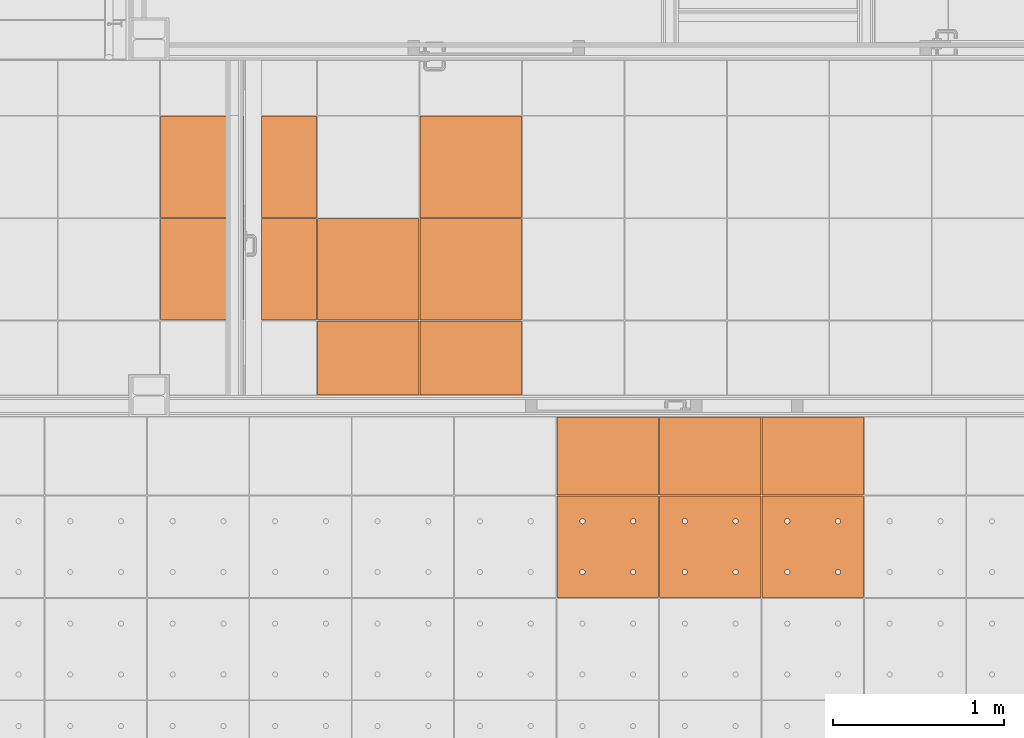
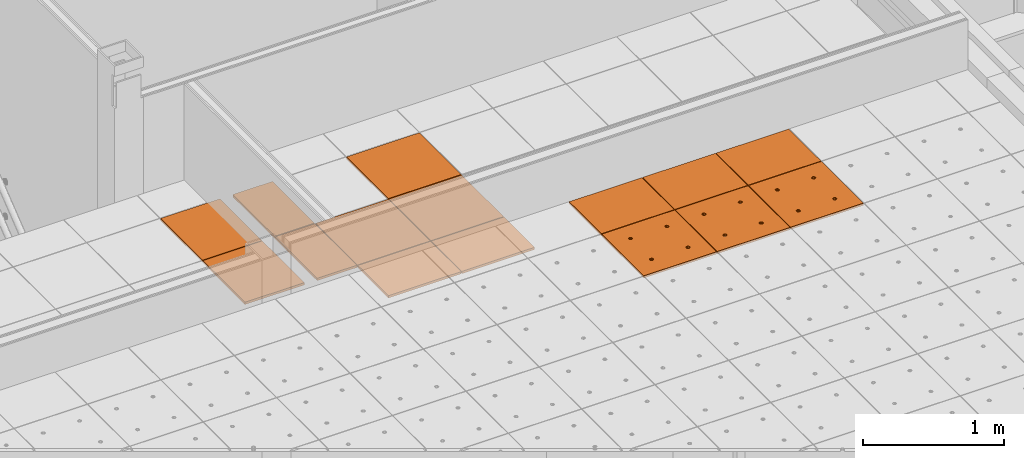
# One storey, part 268 of 338: 15 proxies, 3 elements without a shape of their own.
"""IFC2X3 building model written with IfcOpenShell, lengths in millimetres."""

import ifcopenshell
import ifcopenshell.guid

model = None  # the IFC model being written
_history = None  # IfcOwnerHistory: only IFC2X3 demands one
_inside = {}  # id of a spatial element -> (the spatial element, [elements in it])
_under = {}  # id of a project, library or spatial element -> (it, [spatial elements below it])
_declared = {}  # id of a project -> (the project, [libraries it declares])
_typed = {}  # id of a type object -> (the type object, [elements of that type])
_made_of = {}  # id of a material, layer set ... -> (it, [elements and type objects made of it])


def new_model(schema):
    """Start an empty IFC model of exactly this schema.

    Asked for "IFC4X3", IfcOpenShell would pick the latest addendum, in which some entities
    have other attributes; the version numbers below select the first issue.
    IFC2X3 requires an IfcOwnerHistory on every rooted entity: one is made here for all.
    """
    global model, _history
    if schema == "IFC4X3":
        model = ifcopenshell.file(schema_version=(4, 3, 0, 0))
    else:
        model = ifcopenshell.file(schema=schema)
    _inside.clear()
    _under.clear()
    _declared.clear()
    _typed.clear()
    _made_of.clear()
    _history = None
    if model.schema == "IFC2X3":
        org = make("IfcOrganization", Name="unknown")
        user = make(
            "IfcPersonAndOrganization",
            ThePerson=make("IfcPerson", FamilyName="unknown"),
            TheOrganization=org,
        )
        app = make(
            "IfcApplication",
            ApplicationDeveloper=org,
            Version="unknown",
            ApplicationFullName="unknown",
            ApplicationIdentifier="unknown",
        )
        _history = make(
            "IfcOwnerHistory",
            OwningUser=user,
            OwningApplication=app,
            ChangeAction="ADDED",
            CreationDate=0,
        )
    return model


def make(cls, **values):
    """One entity of the class cls with the attributes given. An attribute that is None is left unset."""
    return model.create_entity(
        cls, **{name: value for name, value in values.items() if value is not None}
    )


def entity(cls, *values):
    """Any entity or typed value of the class cls, its attributes in the order of the schema. None: left unset."""
    e = model.create_entity(cls)
    for i, value in enumerate(values):
        if value is not None:
            e[i] = value
    return e


def rooted(cls, **values):
    """An entity with a GlobalId (a new one), such as an element, a storey or a relation."""
    return make(cls, GlobalId=ifcopenshell.guid.new(), OwnerHistory=_history, **values)


def si_unit(unit_type, name, prefix=None):
    """IfcSIUnit, for example si_unit("LENGTHUNIT", "METRE", prefix="MILLI")."""
    return make("IfcSIUnit", UnitType=unit_type, Prefix=prefix, Name=name)


def converted_unit(unit_type, name, factor, base, dimensions=None, offset=None):
    """IfcConversionBasedUnit, such as the inch: factor (a typed value) times the base unit."""
    return make(
        "IfcConversionBasedUnit"
        if offset is None
        else "IfcConversionBasedUnitWithOffset",
        ConversionOffset=offset,
        Dimensions=None
        if dimensions is None
        else entity("IfcDimensionalExponents", *dimensions),
        UnitType=unit_type,
        Name=name,
        ConversionFactor=make(
            "IfcMeasureWithUnit", ValueComponent=factor, UnitComponent=base
        ),
    )


def derived_unit(unit_type, elements):
    """IfcDerivedUnit: a product of units, each with its exponent."""
    return make(
        "IfcDerivedUnit",
        Elements=[
            make("IfcDerivedUnitElement", Unit=unit, Exponent=power)
            for unit, power in elements
        ],
        UnitType=unit_type,
    )


def money_unit(currency):
    """IfcMonetaryUnit."""
    return make("IfcMonetaryUnit", Currency=currency)


def assignment(units):
    """IfcUnitAssignment: the units of a project."""
    return None if units is None else make("IfcUnitAssignment", Units=units)


def point(xyz):
    """IfcCartesianPoint."""
    return None if xyz is None else make("IfcCartesianPoint", Coordinates=xyz)


def direction(xyz):
    """IfcDirection."""
    return None if xyz is None else make("IfcDirection", DirectionRatios=xyz)


def frame(location, z_axis=None, x_axis=None):
    """IfcAxis2Placement3D, a coordinate frame: its origin and axes. An axis left out is left unset."""
    return make(
        "IfcAxis2Placement3D",
        Location=point(location),
        Axis=direction(z_axis),
        RefDirection=direction(x_axis),
    )


def origin_with_axes():
    """The frame at (0, 0, 0) with the z axis (0, 0, 1) and the x axis (1, 0, 0) written out."""
    return frame((0.0, 0.0, 0.0), z_axis=(0.0, 0.0, 1.0), x_axis=(1.0, 0.0, 0.0))


def place(relative_to, where):
    """IfcLocalPlacement: puts the frame where relative to a parent placement (None: the world)."""
    return make(
        "IfcLocalPlacement", PlacementRelTo=relative_to, RelativePlacement=where
    )


def context(
    kind, dimensions, precision=None, world=None, true_north=None, identifier=None
):
    """IfcGeometricRepresentationContext, for example the 3D "Model" context."""
    return make(
        "IfcGeometricRepresentationContext",
        ContextIdentifier=identifier,
        ContextType=kind,
        CoordinateSpaceDimension=dimensions,
        Precision=precision,
        WorldCoordinateSystem=world,
        TrueNorth=true_north,
    )


def subcontext(parent, identifier, kind, view, scale=None):
    """IfcGeometricRepresentationSubContext, for example "Body" below "Model"."""
    return make(
        "IfcGeometricRepresentationSubContext",
        ContextIdentifier=identifier,
        ContextType=kind,
        ParentContext=parent,
        TargetScale=scale,
        TargetView=view,
    )


def project(units=None, contexts=None):
    """IfcProject with its units and contexts."""
    return rooted(
        "IfcProject",
        Name="project",
        RepresentationContexts=contexts,
        UnitsInContext=assignment(units),
    )


def spatial(cls, under=None, at=None, **own):
    """A site, building, storey or space (cls), placed at a placement, below another one or the project."""
    s = rooted(cls, ObjectPlacement=at, **own)
    if under is not None:
        _under.setdefault(under.id(), (under, []))[1].append(s)
    return s


def faces_of(points, faces, orient=None, outer=None):
    """IfcFace entities. A face is a list of loops; a loop is a list of indices into points, from 0.

    orient and outer hold one flag for each loop. By default every Orientation is true, the
    first loop of a face is its IfcFaceOuterBound and the others are IfcFaceBound.
    """
    made = []
    for i, loops in enumerate(faces):
        bounds = []
        for j, loop in enumerate(loops):
            is_outer = j == 0 if outer is None else outer[i][j]
            bounds.append(
                make(
                    "IfcFaceOuterBound" if is_outer else "IfcFaceBound",
                    Bound=make("IfcPolyLoop", Polygon=[points[k] for k in loop]),
                    Orientation=True if orient is None else orient[i][j],
                )
            )
        made.append(make("IfcFace", Bounds=bounds))
    return made


def faceted_brep(points, faces, orient=None, outer=None, voids=None):
    """IfcFacetedBrep: a solid bounded by flat faces; with voids (closed shells), ...WithVoids."""
    shared = [point(p) for p in points]
    hull = make("IfcClosedShell", CfsFaces=faces_of(shared, faces, orient, outer))
    if voids is None:
        return make("IfcFacetedBrep", Outer=hull)
    return make(
        "IfcFacetedBrepWithVoids",
        Outer=hull,
        Voids=[
            make(cls, CfsFaces=faces_of(shared, fs, o, b)) for cls, fs, o, b in voids
        ],
    )


def shape(context_of_items, identifier, shape_type, items):
    """IfcShapeRepresentation: the items that make up one representation, for example the "Body"."""
    return make(
        "IfcShapeRepresentation",
        ContextOfItems=context_of_items,
        RepresentationIdentifier=identifier,
        RepresentationType=shape_type,
        Items=items,
    )


def source(mapping_origin, context_of_items, identifier, shape_type, items):
    """IfcRepresentationMap: a shape defined once, which mapped items show again and again."""
    return make(
        "IfcRepresentationMap",
        MappingOrigin=mapping_origin,
        MappedRepresentation=shape(context_of_items, identifier, shape_type, items),
    )


def transform(
    local_origin,
    x_axis=None,
    y_axis=None,
    z_axis=None,
    scale=None,
    scale2=None,
    scale3=None,
    uniform=True,
):
    """IfcCartesianTransformationOperator3D, or its non-uniform kind. x_axis, y_axis, z_axis: its Axis1, 2, 3."""
    if uniform:
        return make(
            "IfcCartesianTransformationOperator3D",
            Axis1=direction(x_axis),
            Axis2=direction(y_axis),
            LocalOrigin=point(local_origin),
            Scale=scale,
            Axis3=direction(z_axis),
        )
    return make(
        "IfcCartesianTransformationOperator3DnonUniform",
        Axis1=direction(x_axis),
        Axis2=direction(y_axis),
        LocalOrigin=point(local_origin),
        Scale=scale,
        Axis3=direction(z_axis),
        Scale2=scale2,
        Scale3=scale3,
    )


def mapped(mapping_source, mapping_target):
    """IfcMappedItem: shows the shape of a source again, moved by a transform."""
    return make(
        "IfcMappedItem", MappingSource=mapping_source, MappingTarget=mapping_target
    )


def material(Name=None, Category=None):
    """IfcMaterial."""
    return make("IfcMaterial", Name=Name, Category=Category)


def made_of(thing, what):
    """Note that an element or type object is made of a material, layer set ...; save() writes the relation."""
    if what is not None:
        _made_of.setdefault(what.id(), (what, []))[1].append(thing)
    return thing


def type_object(cls, material=None, **own):
    """A type object (cls), such as IfcWallType, which elements share."""
    return made_of(rooted(cls, **own), material)


def type_shapes(of_type, sources):
    """Give a type object the sources (RepresentationMaps) that its elements show as mapped items."""
    of_type.RepresentationMaps = sources


def element(
    cls,
    number,
    at=None,
    inside=None,
    cuts=None,
    type_object=None,
    material=None,
    context=None,
    identifier="Body",
    shape_type=None,
    held_by="IfcProductDefinitionShape",
    body=None,
    shapes=None,
    **own,
):
    """One element of the class cls, such as IfcWall. Its Tag is "e" and its number.

    at: its placement. inside: the storey or other place that contains it. cuts: it is an
    opening in that element (IfcRelVoidsElement). A single representation is given by context,
    identifier, shape_type and body (its items); several are given by shapes. held_by: the class
    of the entity that holds the representations. save() writes the other relations.
    """
    e = rooted(cls, Tag="e%d" % number, ObjectPlacement=at, **own)
    if body is not None:
        shapes = [shape(context, identifier, shape_type, body)]
    if shapes is not None:
        e.Representation = make(held_by, Representations=shapes)
    if inside is not None:
        _inside.setdefault(inside.id(), (inside, []))[1].append(e)
    if cuts is not None:
        rooted(
            "IfcRelVoidsElement", RelatingBuildingElement=cuts, RelatedOpeningElement=e
        )
    if type_object is not None:
        _typed.setdefault(type_object.id(), (type_object, []))[1].append(e)
    return made_of(e, material)


def aggregate(whole, parts):
    """IfcRelAggregates: a whole, such as a stair, and the parts it consists of."""
    return rooted("IfcRelAggregates", RelatingObject=whole, RelatedObjects=parts)


def save(model, path):
    """Write the relations noted so far, then the file.

    IfcRelAggregates (storeys below a building ...), IfcRelContainedInSpatialStructure (elements
    in a storey), IfcRelDefinesByType, IfcRelAssociatesMaterial and IfcRelDeclares: one each for
    every whole, place, type object, material and project.
    """
    for whole, parts in _under.values():
        aggregate(whole, parts)
    for where, things in _inside.values():
        rooted(
            "IfcRelContainedInSpatialStructure",
            RelatedElements=things,
            RelatingStructure=where,
        )
    for kind, things in _typed.values():
        rooted("IfcRelDefinesByType", RelatedObjects=things, RelatingType=kind)
    for what, things in _made_of.values():
        rooted("IfcRelAssociatesMaterial", RelatedObjects=things, RelatingMaterial=what)
    for by, libraries in _declared.values():
        rooted("IfcRelDeclares", RelatingContext=by, RelatedDefinitions=libraries)
    model.write(path)


model = new_model("IFC2X3")

# Units and contexts
model_context = context("Model", 3, precision=0.01, world=origin_with_axes(), true_north=direction((0.0, 1.0)))
plan_context = context("Plan", 3, precision=0.01, world=origin_with_axes(), true_north=direction((0.0, 1.0)))
body_context = subcontext(model_context, "Body", "Model", "MODEL_VIEW")
ifc_project = project(units=[si_unit("LENGTHUNIT", "METRE", prefix="MILLI"), si_unit("AREAUNIT", "SQUARE_METRE"), si_unit("VOLUMEUNIT", "CUBIC_METRE"), converted_unit("PLANEANGLEUNIT", "DEGREE", entity("IfcPlaneAngleMeasure", 0.0174532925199), si_unit("PLANEANGLEUNIT", "RADIAN"), dimensions=[0, 0, 0, 0, 0, 0, 0]), money_unit("EUR"), converted_unit("TIMEUNIT", "Year", entity("IfcTimeMeasure", 31556926.0), si_unit("TIMEUNIT", "SECOND"), dimensions=[0, 0, 1, 0, 0, 0, 0]), si_unit("MASSUNIT", "GRAM", prefix="KILO"), si_unit("THERMODYNAMICTEMPERATUREUNIT", "DEGREE_CELSIUS"), si_unit("LUMINOUSINTENSITYUNIT", "LUMEN"), si_unit("ENERGYUNIT", "JOULE", prefix="MEGA"), derived_unit("THERMALCONDUCTANCEUNIT", [(si_unit("POWERUNIT", "WATT"), 1), (si_unit("LENGTHUNIT", "METRE"), -1), (si_unit("THERMODYNAMICTEMPERATUREUNIT", "KELVIN"), -1)]), derived_unit("SPECIFICHEATCAPACITYUNIT", [(si_unit("ENERGYUNIT", "JOULE"), 1), (si_unit("MASSUNIT", "GRAM", prefix="KILO"), -1), (si_unit("THERMODYNAMICTEMPERATUREUNIT", "KELVIN"), -1)]), derived_unit("MASSDENSITYUNIT", [(si_unit("MASSUNIT", "GRAM", prefix="KILO"), 1), (si_unit("VOLUMEUNIT", "CUBIC_METRE"), -1)])], contexts=[model_context, plan_context])

# Site, building, storey
site_placement = place(None, origin_with_axes())
site = spatial("IfcSite", under=ifc_project, at=site_placement, Name="Fortuinstraat Woensdrecht", CompositionType="ELEMENT")
building_placement = place(site_placement, origin_with_axes())
building = spatial("IfcBuilding", under=site, at=building_placement, Name="IKC Fortuna", CompositionType="ELEMENT")
storey_placement = place(building_placement, origin_with_axes())
storey = spatial("IfcBuildingStorey", under=building, at=storey_placement, Name="00 begane grond", CompositionType="ELEMENT", Elevation=0.0)

# Covering, proxies
covering_type = type_object("IfcCoveringType", Name="Curtain Wall Type", PredefinedType="CEILING")
covering_1_placement = place(storey_placement, frame((30854.3216019, 19636.030534, 2810.0), z_axis=(0.0, 0.0, 1.0), x_axis=(1.0, 0.0, 0.0)))
covering_1 = element("IfcCovering", 1, at=covering_1_placement, inside=storey, type_object=covering_type, Name="45_Plafondafwerking_P02 gec", PredefinedType="CEILING")
ifc_material = material(Name="Gipsplaat")
building_element_proxy_type_1 = type_object("IfcBuildingElementProxyType", Name="Distinct Panel 600 x 600 x 20", PredefinedType="NOTDEFINED")
shared_shape_1 = source(origin_with_axes(), body_context, "Body", "Brep", [
    faceted_brep([(-2.49999999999, 2.5, -10.0), (-2.49999999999, 2.5, 10.0), (-597.5, 2.49999999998, 10.0), (-597.5, 2.49999999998, -10.0), (-2.50000000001, 597.5, -10.0), (-2.50000000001, 597.5, 10.0), (-597.5, 597.5, 10.0), (-597.5, 597.5, -10.0)], [[[0, 1, 2, 3]], [[4, 5, 1, 0]], [[1, 5, 6, 2]], [[3, 2, 6, 7]], [[0, 3, 7, 4]], [[7, 6, 5, 4]]]),
])
proxy_1_placement = place(covering_1_placement, frame((0.0, -1063.7661008, 0.0), z_axis=(0.0, 0.0, 1.0), x_axis=(1.0, 0.0, 0.0)))
proxy_1 = element("IfcBuildingElementProxy", 2, at=proxy_1_placement, type_object=building_element_proxy_type_1, material=ifc_material, Name="__Panel-D", context=body_context, shape_type="MappedRepresentation", body=[
    mapped(shared_shape_1, transform((-300.0, 300.0, 0.0), x_axis=(-1.0, 0.0, 0.0), y_axis=(0.0, -1.0, 0.0), z_axis=(0.0, 0.0, 1.0))),
])
shared_shape_2 = source(origin_with_axes(), body_context, "Body", "Brep", [
    faceted_brep([(-2.5000069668, 2.4999963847, -10.0), (-2.5000069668, 2.4999963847, 10.0), (-597.499995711, 2.50000275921, 10.0), (-597.499995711, 2.50000275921, -10.0), (-2.50000214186, 597.499967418, -10.0), (-2.50000214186, 597.499967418, 10.0), (-597.499990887, 597.499973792, 10.0), (-597.499990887, 597.499973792, -10.0)], [[[0, 1, 2, 3]], [[4, 5, 1, 0]], [[1, 5, 6, 2]], [[3, 2, 6, 7]], [[0, 3, 7, 4]], [[7, 6, 5, 4]]]),
])
proxy_2_placement = place(covering_1_placement, frame((0.0, -463.766100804, 0.0), z_axis=(0.0, 0.0, 1.0), x_axis=(1.0, 0.0, 0.0)))
proxy_2 = element("IfcBuildingElementProxy", 3, at=proxy_2_placement, type_object=building_element_proxy_type_1, material=ifc_material, Name="__Panel-D", context=body_context, shape_type="MappedRepresentation", body=[
    mapped(shared_shape_2, transform((-300.0, 300.0, 0.0), x_axis=(-1.0, 0.0, 0.0), y_axis=(0.0, -1.0, 0.0), z_axis=(0.0, 0.0, 1.0))),
])
shared_shape_3 = source(origin_with_axes(), body_context, "Body", "Brep", [
    faceted_brep([(-2.49999999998, 2.5, -10.0), (-2.49999999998, 2.5, 10.0), (-597.5, 2.49999999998, 10.0), (-597.5, 2.49999999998, -10.0), (-2.50000000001, 597.5, -10.0), (-2.50000000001, 597.5, 10.0), (-597.5, 597.5, 10.0), (-597.5, 597.5, -10.0)], [[[0, 1, 2, 3]], [[4, 5, 1, 0]], [[1, 5, 6, 2]], [[3, 2, 6, 7]], [[0, 3, 7, 4]], [[7, 6, 5, 4]]]),
])
type_shapes(building_element_proxy_type_1, [shared_shape_1, shared_shape_2, shared_shape_3])
proxy_3_placement = place(covering_1_placement, frame((-600.0, -1063.7661008, 0.0), z_axis=(0.0, 0.0, 1.0), x_axis=(1.0, 0.0, 0.0)))
proxy_3 = element("IfcBuildingElementProxy", 4, at=proxy_3_placement, type_object=building_element_proxy_type_1, material=ifc_material, Name="__Panel-D", context=body_context, shape_type="MappedRepresentation", body=[
    mapped(shared_shape_3, transform((-300.0, 300.0, 0.0), x_axis=(-1.0, 0.0, 0.0), y_axis=(0.0, -1.0, 0.0), z_axis=(0.0, 0.0, 1.0))),
])

covering_2_placement = place(storey_placement, frame((31656.9226967, 15748.5304598, 3210.0), z_axis=(0.0, 0.0, 1.0), x_axis=(1.0, 0.0, 0.0)))
covering_2 = element("IfcCovering", 5, at=covering_2_placement, inside=storey, type_object=covering_type, Name="45_Plafondafwerking_P01", PredefinedType="CEILING")
building_element_proxy_type_2 = type_object("IfcBuildingElementProxyType", Name="Main Panel 600 x 600 x 20", PredefinedType="NOTDEFINED")
shared_shape_4 = source(origin_with_axes(), body_context, "Body", "Brep", [
    faceted_brep([(2.49999999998, 2.49999999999, -10.0), (300.0, 2.49999999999, -10.0), (300.0, 2.49999999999, 10.0), (2.49999999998, 2.49999999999, 10.0), (2.49999999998, 300.0, -10.0), (2.49999999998, 597.5, -10.0), (300.0, 597.5, -10.0), (597.5, 597.5, -10.0), (597.5, 300.0, -10.0), (597.5, 2.49999999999, -10.0), (166.25, 450.06232995, -10.0), (165.79423259, 452.64711538, -10.0), (164.896546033, 455.11348892, -10.0), (163.58421608, 457.38651108, -10.0), (161.897117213, 459.39711721, -10.0), (159.886511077, 461.08421608, -10.0), (157.613488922, 462.39654603, -10.0), (155.147115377, 463.29423259, -10.0), (152.562329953, 463.75, -10.0), (149.937670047, 463.75, -10.0), (147.352884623, 463.29423259, -10.0), (144.886511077, 462.39654603, -10.0), (142.613488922, 461.08421608, -10.0), (140.602882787, 459.39711721, -10.0), (138.91578392, 457.38651108, -10.0), (137.603453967, 455.11348892, -10.0), (136.705767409, 452.64711538, -10.0), (136.25, 450.06232995, -10.0), (136.25, 448.75, -10.0), (136.25, 447.43767005, -10.0), (136.705767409, 444.85288462, -10.0), (137.603453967, 442.38651108, -10.0), (138.91578392, 440.11348892, -10.0), (140.602882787, 438.10288279, -10.0), (142.613488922, 436.41578392, -10.0), (144.886511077, 435.10345397, -10.0), (147.352884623, 434.20576741, -10.0), (149.937670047, 433.75, -10.0), (152.562329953, 433.75, -10.0), (155.147115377, 434.20576741, -10.0), (157.613488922, 435.10345397, -10.0), (159.886511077, 436.41578392, -10.0), (161.897117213, 438.10288279, -10.0), (163.58421608, 440.11348892, -10.0), (164.896546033, 442.38651108, -10.0), (165.79423259, 444.85288462, -10.0), (166.25, 447.43767005, -10.0), (463.75, 450.06232995, -10.0), (463.29423259, 452.64711538, -10.0), (462.396546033, 455.11348892, -10.0), (461.08421608, 457.38651108, -10.0), (459.397117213, 459.39711721, -10.0), (457.386511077, 461.08421608, -10.0), (455.113488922, 462.39654603, -10.0), (452.647115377, 463.29423259, -10.0), (450.062329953, 463.75, -10.0), (447.437670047, 463.75, -10.0), (444.852884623, 463.29423259, -10.0), (442.386511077, 462.39654603, -10.0), (440.113488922, 461.08421608, -10.0), (438.102882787, 459.39711721, -10.0), (436.41578392, 457.38651108, -10.0), (435.103453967, 455.11348892, -10.0), (434.205767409, 452.64711538, -10.0), (433.75, 450.06232995, -10.0), (433.75, 448.75, -10.0), (433.75, 447.43767005, -10.0), (434.205767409, 444.85288462, -10.0), (435.103453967, 442.38651108, -10.0), (436.41578392, 440.11348892, -10.0), (438.102882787, 438.10288279, -10.0), (440.113488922, 436.41578392, -10.0), (442.386511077, 435.10345397, -10.0), (444.852884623, 434.20576741, -10.0), (447.437670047, 433.75, -10.0), (450.062329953, 433.75, -10.0), (452.647115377, 434.20576741, -10.0), (455.113488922, 435.10345397, -10.0), (457.386511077, 436.41578392, -10.0), (459.397117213, 438.10288279, -10.0), (461.08421608, 440.11348892, -10.0), (462.396546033, 442.38651108, -10.0), (463.29423259, 444.85288462, -10.0), (463.75, 447.43767005, -10.0), (463.75, 152.56232995, -10.0), (463.29423259, 155.14711538, -10.0), (462.396546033, 157.61348892, -10.0), (461.08421608, 159.88651108, -10.0), (459.397117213, 161.89711721, -10.0), (457.386511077, 163.58421608, -10.0), (455.113488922, 164.89654603, -10.0), (452.647115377, 165.79423259, -10.0), (450.062329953, 166.25, -10.0), (447.437670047, 166.25, -10.0), (444.852884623, 165.79423259, -10.0), (442.386511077, 164.89654603, -10.0), (440.113488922, 163.58421608, -10.0), (438.102882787, 161.89711721, -10.0), (436.41578392, 159.88651108, -10.0), (435.103453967, 157.61348892, -10.0), (434.205767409, 155.14711538, -10.0), (433.75, 152.56232995, -10.0), (433.75, 151.25, -10.0), (433.75, 149.93767005, -10.0), (434.205767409, 147.35288462, -10.0), (435.103453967, 144.88651108, -10.0), (436.41578392, 142.61348892, -10.0), (438.102882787, 140.60288279, -10.0), (440.113488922, 138.91578392, -10.0), (442.386511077, 137.60345397, -10.0), (444.852884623, 136.70576741, -10.0), (447.437670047, 136.25, -10.0), (450.062329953, 136.25, -10.0), (452.647115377, 136.70576741, -10.0), (455.113488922, 137.60345397, -10.0), (457.386511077, 138.91578392, -10.0), (459.397117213, 140.60288279, -10.0), (461.08421608, 142.61348892, -10.0), (462.396546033, 144.88651108, -10.0), (463.29423259, 147.35288462, -10.0), (463.75, 149.93767005, -10.0), (166.25, 152.56232995, -10.0), (165.79423259, 155.14711538, -10.0), (164.896546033, 157.61348892, -10.0), (163.58421608, 159.88651108, -10.0), (161.897117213, 161.89711721, -10.0), (159.886511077, 163.58421608, -10.0), (157.613488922, 164.89654603, -10.0), (155.147115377, 165.79423259, -10.0), (152.562329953, 166.25, -10.0), (149.937670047, 166.25, -10.0), (147.352884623, 165.79423259, -10.0), (144.886511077, 164.89654603, -10.0), (142.613488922, 163.58421608, -10.0), (140.602882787, 161.89711721, -10.0), (138.91578392, 159.88651108, -10.0), (137.603453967, 157.61348892, -10.0), (136.705767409, 155.14711538, -10.0), (136.25, 152.56232995, -10.0), (136.25, 151.25, -10.0), (136.25, 149.93767005, -10.0), (136.705767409, 147.35288462, -10.0), (137.603453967, 144.88651108, -10.0), (138.91578392, 142.61348892, -10.0), (140.602882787, 140.60288279, -10.0), (142.613488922, 138.91578392, -10.0), (144.886511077, 137.60345397, -10.0), (147.352884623, 136.70576741, -10.0), (149.937670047, 136.25, -10.0), (152.562329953, 136.25, -10.0), (155.147115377, 136.70576741, -10.0), (157.613488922, 137.60345397, -10.0), (159.886511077, 138.91578392, -10.0), (161.897117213, 140.60288279, -10.0), (163.58421608, 142.61348892, -10.0), (164.896546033, 144.88651108, -10.0), (165.79423259, 147.35288462, -10.0), (166.25, 149.93767005, -10.0), (597.5, 2.49999999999, 10.0), (597.5, 300.0, 10.0), (597.5, 597.5, 10.0), (300.0, 597.5, 10.0), (2.49999999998, 597.5, 10.0), (2.49999999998, 300.0, 10.0), (166.25, 450.06232995, 10.0), (166.25, 447.43767005, 10.0), (165.79423259, 444.85288462, 10.0), (164.896546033, 442.38651108, 10.0), (163.58421608, 440.11348892, 10.0), (161.897117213, 438.10288279, 10.0), (159.886511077, 436.41578392, 10.0), (157.613488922, 435.10345397, 10.0), (155.147115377, 434.20576741, 10.0), (152.562329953, 433.75, 10.0), (149.937670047, 433.75, 10.0), (147.352884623, 434.20576741, 10.0), (144.886511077, 435.10345397, 10.0), (142.613488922, 436.41578392, 10.0), (140.602882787, 438.10288279, 10.0), (138.91578392, 440.11348892, 10.0), (137.603453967, 442.38651108, 10.0), (136.705767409, 444.85288462, 10.0), (136.25, 447.43767005, 10.0), (136.25, 448.75, 10.0), (136.25, 450.06232995, 10.0), (136.705767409, 452.64711538, 10.0), (137.603453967, 455.11348892, 10.0), (138.91578392, 457.38651108, 10.0), (140.602882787, 459.39711721, 10.0), (142.613488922, 461.08421608, 10.0), (144.886511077, 462.39654603, 10.0), (147.352884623, 463.29423259, 10.0), (149.937670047, 463.75, 10.0), (152.562329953, 463.75, 10.0), (155.147115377, 463.29423259, 10.0), (157.613488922, 462.39654603, 10.0), (159.886511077, 461.08421608, 10.0), (161.897117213, 459.39711721, 10.0), (163.58421608, 457.38651108, 10.0), (164.896546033, 455.11348892, 10.0), (165.79423259, 452.64711538, 10.0), (463.75, 450.06232995, 10.0), (463.75, 447.43767005, 10.0), (463.29423259, 444.85288462, 10.0), (462.396546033, 442.38651108, 10.0), (461.08421608, 440.11348892, 10.0), (459.397117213, 438.10288279, 10.0), (457.386511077, 436.41578392, 10.0), (455.113488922, 435.10345397, 10.0), (452.647115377, 434.20576741, 10.0), (450.062329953, 433.75, 10.0), (447.437670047, 433.75, 10.0), (444.852884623, 434.20576741, 10.0), (442.386511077, 435.10345397, 10.0), (440.113488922, 436.41578392, 10.0), (438.102882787, 438.10288279, 10.0), (436.41578392, 440.11348892, 10.0), (435.103453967, 442.38651108, 10.0), (434.205767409, 444.85288462, 10.0), (433.75, 447.43767005, 10.0), (433.75, 448.75, 10.0), (433.75, 450.06232995, 10.0), (434.205767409, 452.64711538, 10.0), (435.103453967, 455.11348892, 10.0), (436.41578392, 457.38651108, 10.0), (438.102882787, 459.39711721, 10.0), (440.113488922, 461.08421608, 10.0), (442.386511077, 462.39654603, 10.0), (444.852884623, 463.29423259, 10.0), (447.437670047, 463.75, 10.0), (450.062329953, 463.75, 10.0), (452.647115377, 463.29423259, 10.0), (455.113488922, 462.39654603, 10.0), (457.386511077, 461.08421608, 10.0), (459.397117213, 459.39711721, 10.0), (461.08421608, 457.38651108, 10.0), (462.396546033, 455.11348892, 10.0), (463.29423259, 452.64711538, 10.0), (463.75, 152.56232995, 10.0), (463.75, 149.93767005, 10.0), (463.29423259, 147.35288462, 10.0), (462.396546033, 144.88651108, 10.0), (461.08421608, 142.61348892, 10.0), (459.397117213, 140.60288279, 10.0), (457.386511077, 138.91578392, 10.0), (455.113488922, 137.60345397, 10.0), (452.647115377, 136.70576741, 10.0), (450.062329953, 136.25, 10.0), (447.437670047, 136.25, 10.0), (444.852884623, 136.70576741, 10.0), (442.386511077, 137.60345397, 10.0), (440.113488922, 138.91578392, 10.0), (438.102882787, 140.60288279, 10.0), (436.41578392, 142.61348892, 10.0), (435.103453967, 144.88651108, 10.0), (434.205767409, 147.35288462, 10.0), (433.75, 149.93767005, 10.0), (433.75, 151.25, 10.0), (433.75, 152.56232995, 10.0), (434.205767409, 155.14711538, 10.0), (435.103453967, 157.61348892, 10.0), (436.41578392, 159.88651108, 10.0), (438.102882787, 161.89711721, 10.0), (440.113488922, 163.58421608, 10.0), (442.386511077, 164.89654603, 10.0), (444.852884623, 165.79423259, 10.0), (447.437670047, 166.25, 10.0), (450.062329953, 166.25, 10.0), (452.647115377, 165.79423259, 10.0), (455.113488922, 164.89654603, 10.0), (457.386511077, 163.58421608, 10.0), (459.397117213, 161.89711721, 10.0), (461.08421608, 159.88651108, 10.0), (462.396546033, 157.61348892, 10.0), (463.29423259, 155.14711538, 10.0), (166.25, 152.56232995, 10.0), (166.25, 149.93767005, 10.0), (165.79423259, 147.35288462, 10.0), (164.896546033, 144.88651108, 10.0), (163.58421608, 142.61348892, 10.0), (161.897117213, 140.60288279, 10.0), (159.886511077, 138.91578392, 10.0), (157.613488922, 137.60345397, 10.0), (155.147115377, 136.70576741, 10.0), (152.562329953, 136.25, 10.0), (149.937670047, 136.25, 10.0), (147.352884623, 136.70576741, 10.0), (144.886511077, 137.60345397, 10.0), (142.613488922, 138.91578392, 10.0), (140.602882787, 140.60288279, 10.0), (138.91578392, 142.61348892, 10.0), (137.603453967, 144.88651108, 10.0), (136.705767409, 147.35288462, 10.0), (136.25, 149.93767005, 10.0), (136.25, 151.25, 10.0), (136.25, 152.56232995, 10.0), (136.705767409, 155.14711538, 10.0), (137.603453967, 157.61348892, 10.0), (138.91578392, 159.88651108, 10.0), (140.602882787, 161.89711721, 10.0), (142.613488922, 163.58421608, 10.0), (144.886511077, 164.89654603, 10.0), (147.352884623, 165.79423259, 10.0), (149.937670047, 166.25, 10.0), (152.562329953, 166.25, 10.0), (155.147115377, 165.79423259, 10.0), (157.613488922, 164.89654603, 10.0), (159.886511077, 163.58421608, 10.0), (161.897117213, 161.89711721, 10.0), (163.58421608, 159.88651108, 10.0), (164.896546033, 157.61348892, 10.0), (165.79423259, 155.14711538, 10.0)], [[[0, 1, 2, 3]], [[0, 4, 5, 6, 7, 8, 9, 1], [10, 11, 12, 13, 14, 15, 16, 17, 18, 19, 20, 21, 22, 23, 24, 25, 26, 27, 28, 29, 30, 31, 32, 33, 34, 35, 36, 37, 38, 39, 40, 41, 42, 43, 44, 45, 46], [47, 48, 49, 50, 51, 52, 53, 54, 55, 56, 57, 58, 59, 60, 61, 62, 63, 64, 65, 66, 67, 68, 69, 70, 71, 72, 73, 74, 75, 76, 77, 78, 79, 80, 81, 82, 83], [84, 85, 86, 87, 88, 89, 90, 91, 92, 93, 94, 95, 96, 97, 98, 99, 100, 101, 102, 103, 104, 105, 106, 107, 108, 109, 110, 111, 112, 113, 114, 115, 116, 117, 118, 119, 120], [121, 122, 123, 124, 125, 126, 127, 128, 129, 130, 131, 132, 133, 134, 135, 136, 137, 138, 139, 140, 141, 142, 143, 144, 145, 146, 147, 148, 149, 150, 151, 152, 153, 154, 155, 156, 157]], [[1, 9, 158, 2]], [[3, 2, 158, 159, 160, 161, 162, 163], [164, 165, 166, 167, 168, 169, 170, 171, 172, 173, 174, 175, 176, 177, 178, 179, 180, 181, 182, 183, 184, 185, 186, 187, 188, 189, 190, 191, 192, 193, 194, 195, 196, 197, 198, 199, 200], [201, 202, 203, 204, 205, 206, 207, 208, 209, 210, 211, 212, 213, 214, 215, 216, 217, 218, 219, 220, 221, 222, 223, 224, 225, 226, 227, 228, 229, 230, 231, 232, 233, 234, 235, 236, 237], [238, 239, 240, 241, 242, 243, 244, 245, 246, 247, 248, 249, 250, 251, 252, 253, 254, 255, 256, 257, 258, 259, 260, 261, 262, 263, 264, 265, 266, 267, 268, 269, 270, 271, 272, 273, 274], [275, 276, 277, 278, 279, 280, 281, 282, 283, 284, 285, 286, 287, 288, 289, 290, 291, 292, 293, 294, 295, 296, 297, 298, 299, 300, 301, 302, 303, 304, 305, 306, 307, 308, 309, 310, 311]], [[4, 0, 3, 163]], [[5, 4, 163, 162]], [[6, 5, 162, 161]], [[7, 6, 161, 160]], [[8, 7, 160, 159]], [[9, 8, 159, 158]], [[11, 10, 164, 200]], [[12, 11, 200, 199]], [[13, 12, 199, 198]], [[14, 13, 198, 197]], [[15, 14, 197, 196]], [[16, 15, 196, 195]], [[17, 16, 195, 194]], [[18, 17, 194, 193]], [[19, 18, 193, 192]], [[20, 19, 192, 191]], [[21, 20, 191, 190]], [[22, 21, 190, 189]], [[23, 22, 189, 188]], [[24, 23, 188, 187]], [[25, 24, 187, 186]], [[26, 25, 186, 185]], [[27, 26, 185, 184]], [[28, 27, 184, 183]], [[29, 28, 183, 182]], [[30, 29, 182, 181]], [[31, 30, 181, 180]], [[32, 31, 180, 179]], [[33, 32, 179, 178]], [[34, 33, 178, 177]], [[35, 34, 177, 176]], [[36, 35, 176, 175]], [[37, 36, 175, 174]], [[38, 37, 174, 173]], [[39, 38, 173, 172]], [[40, 39, 172, 171]], [[41, 40, 171, 170]], [[42, 41, 170, 169]], [[43, 42, 169, 168]], [[44, 43, 168, 167]], [[45, 44, 167, 166]], [[46, 45, 166, 165]], [[10, 46, 165, 164]], [[48, 47, 201, 237]], [[49, 48, 237, 236]], [[50, 49, 236, 235]], [[51, 50, 235, 234]], [[52, 51, 234, 233]], [[53, 52, 233, 232]], [[54, 53, 232, 231]], [[55, 54, 231, 230]], [[56, 55, 230, 229]], [[57, 56, 229, 228]], [[58, 57, 228, 227]], [[59, 58, 227, 226]], [[60, 59, 226, 225]], [[61, 60, 225, 224]], [[62, 61, 224, 223]], [[63, 62, 223, 222]], [[64, 63, 222, 221]], [[65, 64, 221, 220]], [[66, 65, 220, 219]], [[67, 66, 219, 218]], [[68, 67, 218, 217]], [[69, 68, 217, 216]], [[70, 69, 216, 215]], [[71, 70, 215, 214]], [[72, 71, 214, 213]], [[73, 72, 213, 212]], [[74, 73, 212, 211]], [[75, 74, 211, 210]], [[76, 75, 210, 209]], [[77, 76, 209, 208]], [[78, 77, 208, 207]], [[79, 78, 207, 206]], [[80, 79, 206, 205]], [[81, 80, 205, 204]], [[82, 81, 204, 203]], [[83, 82, 203, 202]], [[47, 83, 202, 201]], [[85, 84, 238, 274]], [[86, 85, 274, 273]], [[87, 86, 273, 272]], [[88, 87, 272, 271]], [[89, 88, 271, 270]], [[90, 89, 270, 269]], [[91, 90, 269, 268]], [[92, 91, 268, 267]], [[93, 92, 267, 266]], [[94, 93, 266, 265]], [[95, 94, 265, 264]], [[96, 95, 264, 263]], [[97, 96, 263, 262]], [[98, 97, 262, 261]], [[99, 98, 261, 260]], [[100, 99, 260, 259]], [[101, 100, 259, 258]], [[102, 101, 258, 257]], [[103, 102, 257, 256]], [[104, 103, 256, 255]], [[105, 104, 255, 254]], [[106, 105, 254, 253]], [[107, 106, 253, 252]], [[108, 107, 252, 251]], [[109, 108, 251, 250]], [[110, 109, 250, 249]], [[111, 110, 249, 248]], [[112, 111, 248, 247]], [[113, 112, 247, 246]], [[114, 113, 246, 245]], [[115, 114, 245, 244]], [[116, 115, 244, 243]], [[117, 116, 243, 242]], [[118, 117, 242, 241]], [[119, 118, 241, 240]], [[120, 119, 240, 239]], [[84, 120, 239, 238]], [[122, 121, 275, 311]], [[123, 122, 311, 310]], [[124, 123, 310, 309]], [[125, 124, 309, 308]], [[126, 125, 308, 307]], [[127, 126, 307, 306]], [[128, 127, 306, 305]], [[129, 128, 305, 304]], [[130, 129, 304, 303]], [[131, 130, 303, 302]], [[132, 131, 302, 301]], [[133, 132, 301, 300]], [[134, 133, 300, 299]], [[135, 134, 299, 298]], [[136, 135, 298, 297]], [[137, 136, 297, 296]], [[138, 137, 296, 295]], [[139, 138, 295, 294]], [[140, 139, 294, 293]], [[141, 140, 293, 292]], [[142, 141, 292, 291]], [[143, 142, 291, 290]], [[144, 143, 290, 289]], [[145, 144, 289, 288]], [[146, 145, 288, 287]], [[147, 146, 287, 286]], [[148, 147, 286, 285]], [[149, 148, 285, 284]], [[150, 149, 284, 283]], [[151, 150, 283, 282]], [[152, 151, 282, 281]], [[153, 152, 281, 280]], [[154, 153, 280, 279]], [[155, 154, 279, 278]], [[156, 155, 278, 277]], [[157, 156, 277, 276]], [[121, 157, 276, 275]]]),
])
type_shapes(building_element_proxy_type_2, [shared_shape_4])
proxy_4_placement = place(covering_2_placement, frame((0.0, 1200.0, 0.0), z_axis=(0.0, 0.0, 1.0), x_axis=(1.0, 0.0, 0.0)))
proxy_4 = element("IfcBuildingElementProxy", 6, at=proxy_4_placement, type_object=building_element_proxy_type_2, material=ifc_material, Name="__600x603 Rockfon Krios", context=body_context, shape_type="MappedRepresentation", body=[
    mapped(shared_shape_4, transform((300.0, 300.0, 0.0), x_axis=(-1.0, 0.0, 0.0), y_axis=(0.0, -1.0, 0.0), z_axis=(0.0, 0.0, 1.0))),
])
proxy_5_placement = place(covering_2_placement, frame((600.0, 1200.0, 0.0), z_axis=(0.0, 0.0, 1.0), x_axis=(1.0, 0.0, 0.0)))
proxy_5 = element("IfcBuildingElementProxy", 7, at=proxy_5_placement, type_object=building_element_proxy_type_2, material=ifc_material, Name="__600x604 Rockfon Krios", context=body_context, shape_type="MappedRepresentation", body=[
    mapped(shared_shape_4, transform((300.0, 300.0, 0.0), x_axis=(-1.0, 0.0, 0.0), y_axis=(0.0, -1.0, 0.0), z_axis=(0.0, 0.0, 1.0))),
])
proxy_6_placement = place(covering_2_placement, frame((1200.0, 1200.0, 0.0), z_axis=(0.0, 0.0, 1.0), x_axis=(1.0, 0.0, 0.0)))
proxy_6 = element("IfcBuildingElementProxy", 8, at=proxy_6_placement, type_object=building_element_proxy_type_2, material=ifc_material, Name="__600x615 Rockfon Krios", context=body_context, shape_type="MappedRepresentation", body=[
    mapped(shared_shape_4, transform((300.0, 300.0, 0.0), x_axis=(-1.0, 0.0, 0.0), y_axis=(0.0, -1.0, 0.0), z_axis=(0.0, 0.0, 1.0))),
])

# Proxy
building_element_proxy_type_3 = type_object("IfcBuildingElementProxyType", Name="Distinct Panel 600 x 437 x 20", PredefinedType="NOTDEFINED")
shared_shape_5 = source(origin_with_axes(), body_context, "Body", "Brep", [
    faceted_brep([(-2.49999999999, 2.5000033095, -10.0), (-2.49999999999, 2.5000033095, 10.0), (-597.5, 2.50000330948, 10.0), (-597.5, 2.50000330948, -10.0), (-2.50000000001, 434.967816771, -10.0), (-2.50000000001, 434.967816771, 10.0), (-597.5, 434.967798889, 10.0), (-597.5, 434.967798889, -10.0)], [[[0, 1, 2, 3]], [[4, 5, 1, 0]], [[1, 5, 6, 2]], [[3, 2, 6, 7]], [[0, 3, 7, 4]], [[7, 6, 5, 4]]]),
])
proxy_7_placement = place(covering_1_placement, frame((0.0, -1582.49999421, 0.0), z_axis=(0.0, 0.0, 1.0), x_axis=(1.0, 0.0, 0.0)))
proxy_7 = element("IfcBuildingElementProxy", 9, at=proxy_7_placement, type_object=building_element_proxy_type_3, material=ifc_material, Name="__Panel-D", context=body_context, shape_type="MappedRepresentation", body=[
    mapped(shared_shape_5, transform((-300.0, 218.733893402, 0.0), x_axis=(-1.0, 0.0, 0.0), y_axis=(0.0, -1.0, 0.0), z_axis=(0.0, 0.0, 1.0))),
])

shared_shape_6 = source(origin_with_axes(), body_context, "Body", "Brep", [
    faceted_brep([(-2.49999999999, 2.50000151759, -10.0), (-2.49999999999, 2.50000151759, 10.0), (-597.5, 2.50000151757, 10.0), (-597.5, 2.50000151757, -10.0), (-2.50000000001, 434.967797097, -10.0), (-2.50000000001, 434.967797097, 10.0), (-597.5, 434.967797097, 10.0), (-597.5, 434.967797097, -10.0)], [[[0, 1, 2, 3]], [[4, 5, 1, 0]], [[1, 5, 6, 2]], [[3, 2, 6, 7]], [[0, 3, 7, 4]], [[7, 6, 5, 4]]]),
])
type_shapes(building_element_proxy_type_3, [shared_shape_5, shared_shape_6])
proxy_8_placement = place(covering_1_placement, frame((-600.0, -1582.50000776, 0.0), z_axis=(0.0, 0.0, 1.0), x_axis=(1.0, 0.0, 0.0)))
proxy_8 = element("IfcBuildingElementProxy", 10, at=proxy_8_placement, type_object=building_element_proxy_type_3, material=ifc_material, Name="__Panel-D", context=body_context, shape_type="MappedRepresentation", body=[
    mapped(shared_shape_6, transform((-300.0, 218.733906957, 0.0), x_axis=(-1.0, 0.0, 0.0), y_axis=(0.0, -1.0, 0.0), z_axis=(0.0, 0.0, 1.0))),
])

# Covering, proxies
covering_3_placement = place(storey_placement, frame((28134.6600538, 19636.0305189, 2810.0), z_axis=(0.0, 0.0, 1.0), x_axis=(1.0, 0.0, 0.0)))
covering_3 = element("IfcCovering", 11, at=covering_3_placement, inside=storey, type_object=covering_type, Name="45_Plafondafwerking_P02", PredefinedType="CEILING")
building_element_proxy_type_4 = type_object("IfcBuildingElementProxyType", Name="Distinct Panel 490 x 600 x 20", PredefinedType="NOTDEFINED")
shared_shape_7 = source(origin_with_axes(), body_context, "Body", "Brep", [
    faceted_brep([(-2.49999637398, 2.5, -10.0), (-2.49999637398, 2.5, 10.0), (-487.741726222, 2.49999999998, 10.0), (-487.741726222, 2.49999999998, -10.0), (-2.49999637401, 597.5, -10.0), (-2.49999637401, 597.5, 10.0), (-487.741726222, 597.5, 10.0), (-487.741726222, 597.5, -10.0)], [[[0, 1, 2, 3]], [[4, 5, 1, 0]], [[1, 5, 6, 2]], [[3, 2, 6, 7]], [[0, 3, 7, 4]], [[7, 6, 5, 4]]]),
])
type_shapes(building_element_proxy_type_4, [shared_shape_7])
proxy_9_placement = place(covering_3_placement, frame((1145.12086311, -463.766085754, 1.172395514e-10), z_axis=(0.0, 0.0, 1.0), x_axis=(1.0, 0.0, 0.0)))
proxy_9 = element("IfcBuildingElementProxy", 12, at=proxy_9_placement, type_object=building_element_proxy_type_4, material=ifc_material, Name="__Panel-D", context=body_context, shape_type="MappedRepresentation", body=[
    mapped(shared_shape_7, transform((-245.120863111, 300.0, 0.0), x_axis=(-1.0, 0.0, 0.0), y_axis=(0.0, -1.0, 0.0), z_axis=(0.0, 0.0, 1.0))),
])
proxy_10_placement = place(covering_3_placement, frame((1145.12086311, -1063.76608575, 1.172395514e-10), z_axis=(0.0, 0.0, 1.0), x_axis=(1.0, 0.0, 0.0)))
proxy_10 = element("IfcBuildingElementProxy", 13, at=proxy_10_placement, type_object=building_element_proxy_type_4, material=ifc_material, Name="__Panel-D", context=body_context, shape_type="MappedRepresentation", body=[
    mapped(shared_shape_7, transform((-245.120863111, 300.0, 0.0), x_axis=(-1.0, 0.0, 0.0), y_axis=(0.0, -1.0, 0.0), z_axis=(0.0, 0.0, 1.0))),
])
aggregate(covering_3, [proxy_9, proxy_10])

# Proxy
building_element_proxy_type_5 = type_object("IfcBuildingElementProxyType", Name="Distinct Panel 329 x 600 x 20", PredefinedType="NOTDEFINED")
shared_shape_8 = source(origin_with_axes(), body_context, "Body", "Brep", [
    faceted_brep([(-273.080180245, 2.5, -10.0), (-273.080180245, 2.5, 10.0), (-597.5, 2.49999999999, 10.0), (-597.5, 2.49999999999, -10.0), (-273.080180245, 597.5, -10.0), (-273.080180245, 597.5, 10.0), (-597.5, 597.5, 10.0), (-597.5, 597.5, -10.0)], [[[0, 1, 2, 3]], [[4, 5, 1, 0]], [[1, 5, 6, 2]], [[3, 2, 6, 7]], [[0, 3, 7, 4]], [[7, 6, 5, 4]]]),
])
type_shapes(building_element_proxy_type_5, [shared_shape_8])
proxy_11_placement = place(covering_1_placement, frame((-1064.70990772, -463.766100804, 0.0), z_axis=(0.0, 0.0, 1.0), x_axis=(1.0, 0.0, 0.0)))
proxy_11 = element("IfcBuildingElementProxy", 14, at=proxy_11_placement, type_object=building_element_proxy_type_5, material=ifc_material, Name="__Panel-D", context=body_context, shape_type="MappedRepresentation", body=[
    mapped(shared_shape_8, transform((-435.290092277, 300.0, 0.0), x_axis=(-1.0, 0.0, 0.0), y_axis=(0.0, -1.0, 0.0), z_axis=(0.0, 0.0, 1.0))),
])

proxy_12_placement = place(covering_1_placement, frame((-1064.70990772, -1063.7661008, 0.0), z_axis=(0.0, 0.0, 1.0), x_axis=(1.0, 0.0, 0.0)))
proxy_12 = element("IfcBuildingElementProxy", 15, at=proxy_12_placement, type_object=building_element_proxy_type_5, material=ifc_material, Name="__Panel-D", context=body_context, shape_type="MappedRepresentation", body=[
    mapped(shared_shape_8, transform((-435.290092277, 300.0, 0.0), x_axis=(-1.0, 0.0, 0.0), y_axis=(0.0, -1.0, 0.0), z_axis=(0.0, 0.0, 1.0))),
])

aggregate(covering_1, [proxy_7, proxy_2, proxy_11, proxy_12, proxy_1, proxy_8, proxy_3])

building_element_proxy_type_6 = type_object("IfcBuildingElementProxyType", Name="600 x 461 x 20", PredefinedType="NOTDEFINED")
shared_shape_9 = source(origin_with_axes(), body_context, "Body", "Brep", [
    faceted_brep([(2.49999999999, 141.233853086, -10.0), (597.5, 141.233853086, -10.0), (597.5, 141.233853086, 10.0), (2.49999999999, 141.233853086, 10.0), (2.50000000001, 597.5, -10.0), (597.5, 597.5, -10.0), (597.5, 597.5, 10.0), (2.50000000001, 597.5, 10.0)], [[[0, 1, 2, 3]], [[0, 4, 5, 1]], [[1, 5, 6, 2]], [[3, 2, 6, 7]], [[4, 0, 3, 7]], [[5, 4, 7, 6]]]),
])
proxy_13_placement = place(covering_2_placement, frame((600.0, 1730.63307755, 0.0), z_axis=(0.0, 0.0, 1.0), x_axis=(1.0, 0.0, 0.0)))
proxy_13 = element("IfcBuildingElementProxy", 16, at=proxy_13_placement, type_object=building_element_proxy_type_6, material=ifc_material, Name="__600x613 Rockfon Krios", context=body_context, shape_type="MappedRepresentation", body=[
    mapped(shared_shape_9, transform((300.0, 369.366938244, 0.0), x_axis=(-1.0, 0.0, 0.0), y_axis=(0.0, -1.0, 0.0), z_axis=(0.0, 0.0, 1.0))),
])

shared_shape_10 = source(origin_with_axes(), body_context, "Body", "Brep", [
    faceted_brep([(2.5, 141.233853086, -10.0), (597.5, 141.233853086, -10.0), (597.5, 141.233853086, 10.0), (2.5, 141.233853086, 10.0), (2.50000000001, 597.5, -10.0), (597.5, 597.5, -10.0), (597.5, 597.5, 10.0), (2.50000000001, 597.5, 10.0)], [[[0, 1, 2, 3]], [[0, 4, 5, 1]], [[1, 5, 6, 2]], [[3, 2, 6, 7]], [[4, 0, 3, 7]], [[5, 4, 7, 6]]]),
])
type_shapes(building_element_proxy_type_6, [shared_shape_9, shared_shape_10])
proxy_14_placement = place(covering_2_placement, frame((0.0, 1730.63307755, 0.0), z_axis=(0.0, 0.0, 1.0), x_axis=(1.0, 0.0, 0.0)))
proxy_14 = element("IfcBuildingElementProxy", 17, at=proxy_14_placement, type_object=building_element_proxy_type_6, material=ifc_material, Name="__600x617 Rockfon Krios", context=body_context, shape_type="MappedRepresentation", body=[
    mapped(shared_shape_10, transform((300.0, 369.366938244, 0.0), x_axis=(-1.0, 0.0, 0.0), y_axis=(0.0, -1.0, 0.0), z_axis=(0.0, 0.0, 1.0))),
])

proxy_15_placement = place(covering_2_placement, frame((1200.0, 1730.63307755, 0.0), z_axis=(0.0, 0.0, 1.0), x_axis=(1.0, 0.0, 0.0)))
proxy_15 = element("IfcBuildingElementProxy", 18, at=proxy_15_placement, type_object=building_element_proxy_type_6, material=ifc_material, Name="__600x755 Rockfon Krios", context=body_context, shape_type="MappedRepresentation", body=[
    mapped(shared_shape_10, transform((300.0, 369.366938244, 0.0), x_axis=(-1.0, 0.0, 0.0), y_axis=(0.0, -1.0, 0.0), z_axis=(0.0, 0.0, 1.0))),
])

aggregate(covering_2, [proxy_4, proxy_5, proxy_13, proxy_6, proxy_14, proxy_15])

save(model, "model.ifc")
